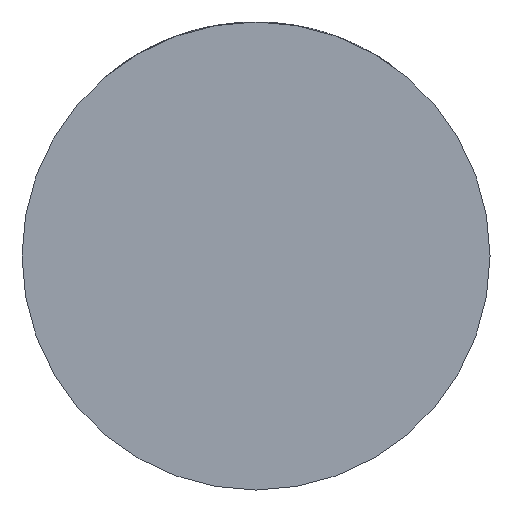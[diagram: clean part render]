
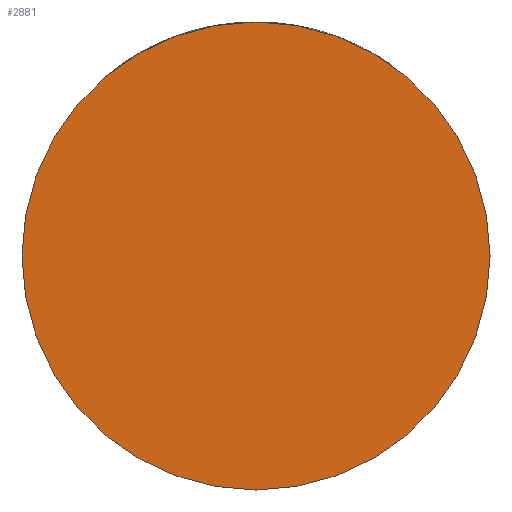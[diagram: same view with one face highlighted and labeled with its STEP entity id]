
A CAD part, front view. The second image highlights one B-rep face of the part: STEP entity #2881.
In plain terms, the highlighted planar face has unit normal (0, -1, 0).
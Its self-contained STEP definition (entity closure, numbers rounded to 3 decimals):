
#272 = CARTESIAN_POINT ( 'NONE',  ( 0., -36., 0. ) ) ;
#617 = CARTESIAN_POINT ( 'NONE',  ( 39., -36., 0. ) ) ;
#654 = DIRECTION ( 'NONE',  ( 1., 0., 0. ) ) ;
#880 = DIRECTION ( 'NONE',  ( 0., -1., 0. ) ) ;
#947 = CARTESIAN_POINT ( 'NONE',  ( 0., -36., 0. ) ) ;
#978 = DIRECTION ( 'NONE',  ( 0., -1., 0. ) ) ;
#1317 = DIRECTION ( 'NONE',  ( 0., -1., 0. ) ) ;
#1460 = CIRCLE ( 'NONE', #3669, 39. ) ;
#1723 = ORIENTED_EDGE ( 'NONE', *, *, #3776, .T. ) ;
#2158 = CIRCLE ( 'NONE', #2381, 39. ) ;
#2199 = VERTEX_POINT ( 'NONE', #617 ) ;
#2313 = CARTESIAN_POINT ( 'NONE',  ( 0., -36., 0. ) ) ;
#2381 = AXIS2_PLACEMENT_3D ( 'NONE', #272, #978, #654 ) ;
#2718 = AXIS2_PLACEMENT_3D ( 'NONE', #947, #1317, #2735 ) ;
#2735 = DIRECTION ( 'NONE',  ( 1., 0., 0. ) ) ;
#2747 = EDGE_CURVE ( 'NONE', #4053, #2199, #1460, .T. ) ;
#2881 = ADVANCED_FACE ( 'NONE', ( #3074 ), #4497, .T. ) ;
#3074 = FACE_OUTER_BOUND ( 'NONE', #3265, .T. ) ;
#3099 = ORIENTED_EDGE ( 'NONE', *, *, #2747, .T. ) ;
#3265 = EDGE_LOOP ( 'NONE', ( #3099, #1723 ) ) ;
#3669 = AXIS2_PLACEMENT_3D ( 'NONE', #2313, #880, #4405 ) ;
#3776 = EDGE_CURVE ( 'NONE', #2199, #4053, #2158, .T. ) ;
#4053 = VERTEX_POINT ( 'NONE', #4128 ) ;
#4128 = CARTESIAN_POINT ( 'NONE',  ( -39., -36., 0. ) ) ;
#4405 = DIRECTION ( 'NONE',  ( 1., 0., 0. ) ) ;
#4497 = PLANE ( 'NONE',  #2718 ) ;
